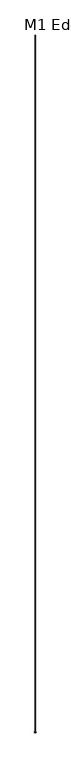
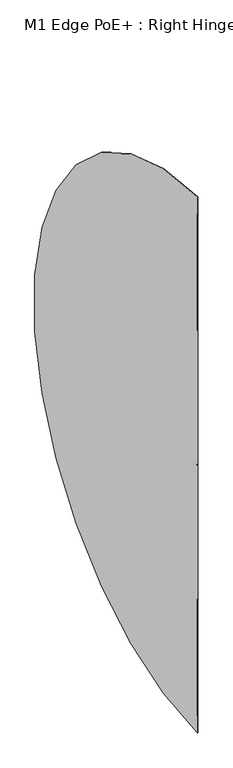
"""IFC4 building model written with IfcOpenShell, lengths in millimetres: proxy geometry, M1 Edge PoE+ : Right Hinge."""

from ifc_helpers import new_model, si_unit, frame, origin, place, context, project, spatial, polyline, circle_curve, outline, extrude, source, transform, mapped, element, save
from ifc_brep_helpers import plane_surface, cylinder_surface, revolved_surface, advanced_brep


def m1_edge_poe_right_hinge_7a0e9621(model_context):
    return source(origin(), model_context, "Body", "SolidModel", [
        extrude(outline(polyline([(82.55, 150.0), (82.55, 0.0), (79.375, 0.0), (79.375, 150.0), (82.55, 150.0)])), frame((0.0, 0.0, 2860.4272325), z_axis=(0.0, 0.0, 1.0), x_axis=(1.0, 0.0, 0.0)), (0.0, 0.0, 1.0), 100.0125),
        extrude(outline(polyline([(82.55, 3.175), (232.55, 3.175), (232.55, 0.0), (82.55, 0.0), (82.55, 3.175)])), frame((0.0, 0.0, 2860.4272325), z_axis=(0.0, 0.0, 1.0), x_axis=(1.0, 0.0, 0.0)), (0.0, 0.0, 1.0), 100.0125),
        advanced_brep(
        [(152.5984375, 28.675, 2910.4334825), (152.5984375, 117.675, 2910.4334825), (216.65, 117.675, 2910.4334825), (216.65, 28.675, 2910.4334825), (152.5984375, 25.175, 2910.4334825), (152.5984375, 121.175, 2910.4334825), (142.5773438, 25.175, 2910.4334825), (142.5773438, 121.175, 2910.4334825), (142.5773438, 15.675, 2910.4334825), (142.5773438, 130.675, 2910.4334825), (82.55, 15.675, 2910.4334825), (82.55, 130.675, 2910.4334825), (82.55, 73.175, 2910.4334825), (216.65, 73.175, 2910.4334825)],
        [
            (0, 1, circle_curve(frame((152.5984375, 73.175, 2910.4334825), z_axis=(1.0, 0.0, 0.0), x_axis=(0.0, 1.0, 0.0)), 44.5)),
            (1, 2),
            (2, 3, circle_curve(frame((216.65, 73.175, 2910.4334825), z_axis=(-1.0, 0.0, 0.0), x_axis=(0.0, 1.0, 0.0)), 44.5)),
            (3, 0),
            (1, 0, circle_curve(frame((152.5984375, 73.175, 2910.4334825), z_axis=(1.0, 0.0, 0.0), x_axis=(0.0, 1.0, 0.0)), 44.5)),
            (3, 2, circle_curve(frame((216.65, 73.175, 2910.4334825), z_axis=(-1.0, 0.0, 0.0), x_axis=(0.0, 1.0, 0.0)), 44.5)),
            (4, 5, circle_curve(frame((152.5984375, 73.175, 2910.4334825), z_axis=(1.0, 0.0, 0.0), x_axis=(0.0, 1.0, 0.0)), 48.0)),
            (5, 1),
            (0, 4),
            (5, 4, circle_curve(frame((152.5984375, 73.175, 2910.4334825), z_axis=(1.0, 0.0, 0.0), x_axis=(0.0, 1.0, 0.0)), 48.0)),
            (6, 7, circle_curve(frame((142.5773438, 73.175, 2910.4334825), z_axis=(1.0, 0.0, 0.0), x_axis=(0.0, 1.0, 0.0)), 48.0)),
            (7, 5),
            (4, 6),
            (7, 6, circle_curve(frame((142.5773438, 73.175, 2910.4334825), z_axis=(1.0, 0.0, 0.0), x_axis=(0.0, 1.0, 0.0)), 48.0)),
            (8, 9, circle_curve(frame((142.5773438, 73.175, 2910.4334825), z_axis=(1.0, 0.0, 0.0), x_axis=(0.0, 1.0, 0.0)), 57.5)),
            (9, 7),
            (6, 8),
            (9, 8, circle_curve(frame((142.5773438, 73.175, 2910.4334825), z_axis=(1.0, 0.0, 0.0), x_axis=(0.0, 1.0, 0.0)), 57.5)),
            (10, 11, circle_curve(frame((82.55, 73.175, 2910.4334825), z_axis=(1.0, 0.0, 0.0), x_axis=(0.0, 1.0, 0.0)), 57.5)),
            (11, 9),
            (8, 10),
            (11, 10, circle_curve(frame((82.55, 73.175, 2910.4334825), z_axis=(1.0, 0.0, 0.0), x_axis=(0.0, 1.0, 0.0)), 57.5)),
            (12, 11),
            (10, 12),
            (2, 13),
            (13, 3),
        ],
        [
            cylinder_surface(frame((484.5299573, 73.175, 2910.4334825), z_axis=(-1.0, 0.0, 0.0), x_axis=(0.0, 1.0, 0.0)), 44.5),
            plane_surface(frame((152.5984375, 73.175, 2910.4334825), z_axis=(1.0, 0.0, 0.0), x_axis=(0.0, 1.0, 0.0))),
            cylinder_surface(frame((484.5299573, 73.175, 2910.4334825), z_axis=(-1.0, 0.0, 0.0), x_axis=(0.0, 1.0, 0.0)), 48.0),
            plane_surface(frame((142.5773438, 73.175, 2910.4334825), z_axis=(1.0, 0.0, 0.0), x_axis=(0.0, 1.0, 0.0))),
            cylinder_surface(frame((484.5299573, 73.175, 2910.4334825), z_axis=(-1.0, 0.0, 0.0), x_axis=(0.0, 1.0, 0.0)), 57.5),
            plane_surface(frame((82.55, 73.175, 2910.4334825), z_axis=(-1.0, 0.0, 0.0), x_axis=(0.0, 1.0, 0.0))),
            plane_surface(frame((216.65, 73.175, 2910.4334825), z_axis=(1.0, 0.0, 0.0), x_axis=(0.0, 1.0, 0.0))),
        ],
        [
            (0, [[1, 2, 3, 4]]),
            (0, [[5, -4, 6, -2]]),
            (1, [[7, 8, -1, 9]]),
            (1, [[10, -9, -5, -8]]),
            (2, [[11, 12, -7, 13]]),
            (2, [[14, -13, -10, -12]]),
            (3, [[15, 16, -11, 17]]),
            (3, [[18, -17, -14, -16]]),
            (4, [[19, 20, -15, 21]]),
            (4, [[22, -21, -18, -20]]),
            (5, [[23, -19, 24]]),
            (5, [[-24, -22, -23]]),
            (6, [[-3, 25, 26]]),
            (6, [[-6, -26, -25]]),
        ],
    ),
        advanced_brep(
        [(181.1734375, 73.175, 73014.4334825), (101.4577085, 73.175, 73014.4334825), (181.1734375, 73.175, 2956.7315594), (181.1734375, 73.175, -67193.5665175), (181.1734375, 73.175, 2864.1354057), (101.4577085, 73.175, -67193.5665175)],
        [
            (0, 1),
            (1, 2),
            (2, 0),
            (3, 4),
            (4, 5),
            (5, 3),
            (5, 1, circle_curve(frame((101.4577085, 73.175, 2910.4334825), z_axis=(1.0, 0.0, 0.0), x_axis=(0.0, 0.0, 1.0)), 70104.0)),
            (0, 3, circle_curve(frame((181.1734375, 73.175, 2910.4334825), z_axis=(-1.0, 0.0, 0.0), x_axis=(0.0, 0.0, 1.0)), 70104.0)),
            (4, 2, circle_curve(frame((181.1734375, 73.175, 2910.4334825), z_axis=(1.0, 0.0, 0.0), x_axis=(0.0, 0.0, 1.0)), 46.2980768)),
        ],
        [
            plane_surface(frame((2524.9802318, 73.175, 2910.4334825), z_axis=(0.0, -1.0, 0.0), x_axis=(0.0, 0.0, 1.0))),
            plane_surface(frame((2524.9802318, 73.175, 2910.4334825), z_axis=(0.0, -1.0, 0.0), x_axis=(0.0, 0.0, -1.0))),
            cylinder_surface(frame((2524.9802318, 73.175, 2910.4334825), z_axis=(-1.0, 0.0, 0.0), x_axis=(0.0, 0.0, 1.0)), 70104.0),
            revolved_surface(polyline([(101.4577085, 73.175, 73014.4334825), (181.1734375, 73.175, 2956.7315594)]), (2524.9802318, 73.175, 2910.4334825), (-1.0, 0.0, 0.0)),
            plane_surface(frame((181.1734375, 73.175, 2910.4334825), z_axis=(1.0, 0.0, 0.0), x_axis=(0.0, 0.0, 1.0))),
        ],
        [
            (0, [[1, 2, 3]]),
            (1, [[4, 5, 6]]),
            (2, [[7, -1, 8, -6]]),
            (3, [[9, -2, -7, -5]]),
            (4, [[-8, -3, -9, -4]]),
        ],
    ),
    ])


if __name__ == "__main__":
    model = new_model("IFC4")
    model_context = context("Model", 3, world=origin())
    ifc_project = project(units=[si_unit("LENGTHUNIT", "METRE", prefix="MILLI")], contexts=[model_context])
    site = spatial("IfcSite", under=ifc_project)
    building = spatial("IfcBuilding", under=site)
    placement = place(None, origin())
    m1_edge_poe_right_hinge_shape = m1_edge_poe_right_hinge_7a0e9621(model_context)
    element("IfcBuildingElementProxy", 1, Name="M1 Edge PoE+ : Right Hinge", ObjectType="M1 Edge PoE+ : Right Hinge", at=placement, inside=building, context=model_context, shape_type="MappedRepresentation", body=[
        mapped(m1_edge_poe_right_hinge_shape, transform((0.0, 0.0, 0.0), x_axis=(1.0, 0.0, 0.0), y_axis=(0.0, 1.0, 0.0), z_axis=(0.0, 0.0, 1.0))),
    ])
    save(model, "model.ifc")
